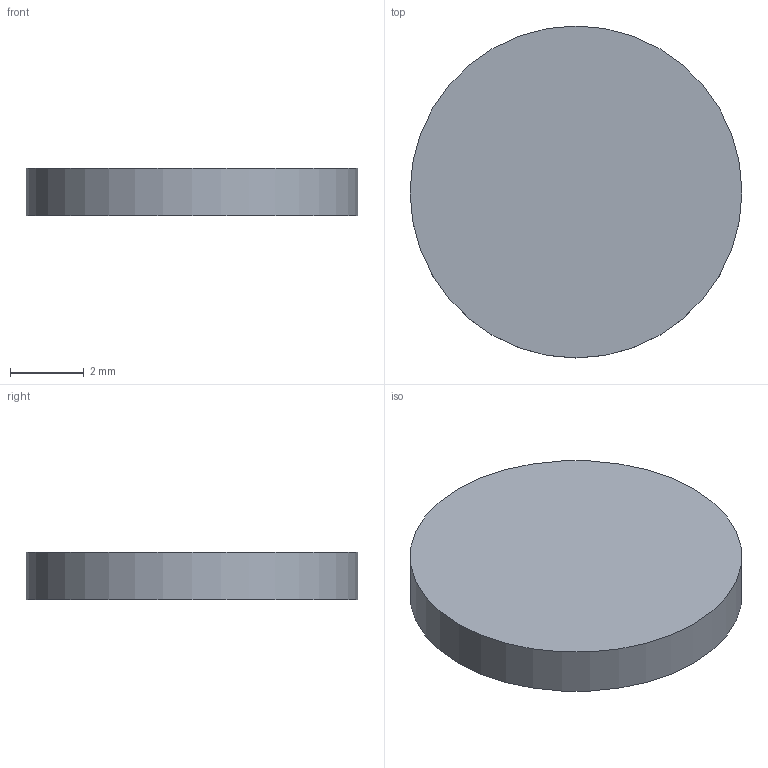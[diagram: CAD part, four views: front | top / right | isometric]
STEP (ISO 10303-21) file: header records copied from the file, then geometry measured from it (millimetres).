
FILE_DESCRIPTION(('Open CASCADE Model'),'2;1');
FILE_NAME('Open CASCADE Shape Model','2026-10-01T12:35:23',('Author'),( 'Open CASCADE'),'Open CASCADE STEP processor 7.8','Open CASCADE 7.8' ,'Unknown');
FILE_SCHEMA(('AUTOMOTIVE_DESIGN { 1 0 10303 214 1 1 1 1 }'));
Length unit declared in the file: millimetre
Products named in the file (2): H94_Rubber_foot_4; H94_Rubber_foot_4_solid
Assembly tree (1 placements, depth 2):
  H94_Rubber_foot_4
    H94_Rubber_foot_4_solid
Bounding box: 9 x 9 x 1.3 mm (x, y, z)
Volume: 82.7 mm3; surface area: 164 mm2
Topology: 1 solids, 1 shells, 3 faces, 3 edges, 2 vertices
Faces by surface type: plane 2, cylinder 1
Full cylindrical faces by diameter (mm): 9 x1
Entity records: 135 total; most frequent: DIRECTION 21, CARTESIAN_POINT 16, AXIS2_PLACEMENT_3D 7, ORIENTED_EDGE 6, PCURVE 6, DEFINITIONAL_REPRESENTATION 6, LINE 5, VECTOR 5
